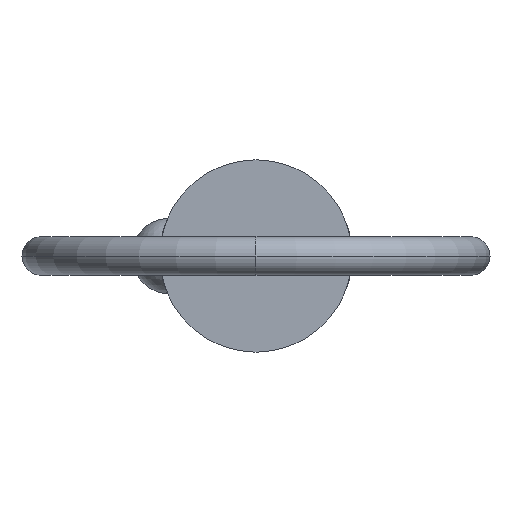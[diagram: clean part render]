
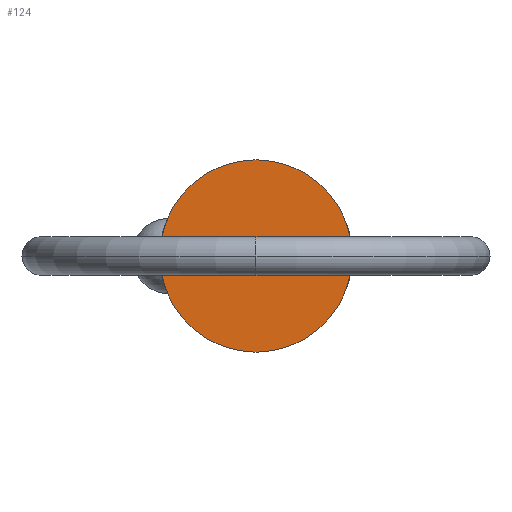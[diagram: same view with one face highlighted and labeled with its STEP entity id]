
A CAD part, left-side view. The second image highlights one B-rep face of the part: STEP entity #124.
In plain terms, the highlighted planar face has unit normal (-1, 0, 0).
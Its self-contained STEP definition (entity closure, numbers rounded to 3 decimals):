
#12 = EDGE_CURVE ( 'NONE', #632, #615, #447, .T. ) ;
#27 = AXIS2_PLACEMENT_3D ( 'NONE', #644, #236, #160 ) ;
#54 = CIRCLE ( 'NONE', #27, 7.11 ) ;
#75 = ORIENTED_EDGE ( 'NONE', *, *, #757, .F. ) ;
#96 = ORIENTED_EDGE ( 'NONE', *, *, #12, .F. ) ;
#124 = ADVANCED_FACE ( 'NONE', ( #393 ), #881, .T. ) ;
#135 = DIRECTION ( 'NONE',  ( 1., 0., 0. ) ) ;
#160 = DIRECTION ( 'NONE',  ( 0., 0., -1. ) ) ;
#181 = AXIS2_PLACEMENT_3D ( 'NONE', #455, #398, #668 ) ;
#236 = DIRECTION ( 'NONE',  ( 1., 0., 0. ) ) ;
#375 = CARTESIAN_POINT ( 'NONE',  ( 0., 0., 7.11 ) ) ;
#393 = FACE_OUTER_BOUND ( 'NONE', #853, .T. ) ;
#398 = DIRECTION ( 'NONE',  ( -1., 0., 0. ) ) ;
#447 = CIRCLE ( 'NONE', #523, 7.11 ) ;
#455 = CARTESIAN_POINT ( 'NONE',  ( 0., 0., 0. ) ) ;
#464 = CARTESIAN_POINT ( 'NONE',  ( 0., 0., 0. ) ) ;
#523 = AXIS2_PLACEMENT_3D ( 'NONE', #464, #135, #537 ) ;
#537 = DIRECTION ( 'NONE',  ( 0., 0., -1. ) ) ;
#615 = VERTEX_POINT ( 'NONE', #699 ) ;
#632 = VERTEX_POINT ( 'NONE', #375 ) ;
#644 = CARTESIAN_POINT ( 'NONE',  ( 0., 0., 0. ) ) ;
#668 = DIRECTION ( 'NONE',  ( 0., 0., 1. ) ) ;
#699 = CARTESIAN_POINT ( 'NONE',  ( 0., 0., -7.11 ) ) ;
#757 = EDGE_CURVE ( 'NONE', #615, #632, #54, .T. ) ;
#853 = EDGE_LOOP ( 'NONE', ( #75, #96 ) ) ;
#881 = PLANE ( 'NONE',  #181 ) ;
